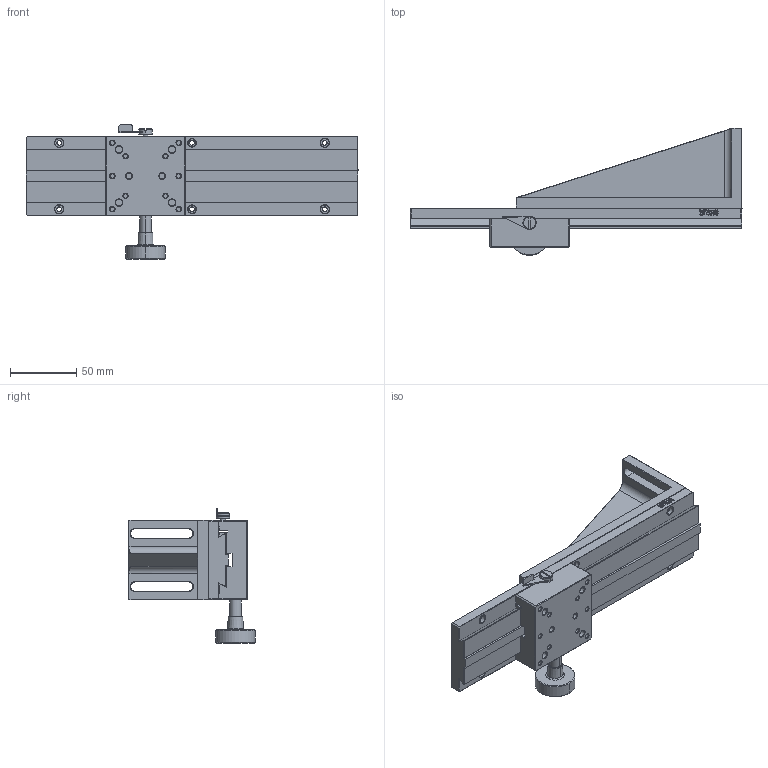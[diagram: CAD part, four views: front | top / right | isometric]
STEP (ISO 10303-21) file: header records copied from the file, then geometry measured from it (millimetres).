
FILE_DESCRIPTION (( 'STEP AP214' ), '1' );
FILE_NAME ('PT-DZ60-250.STEP', '2022-09-17T03:23:40', ( '' ), ( '' ), 'SwSTEP 2.0', 'SolidWorks 2017', '' );
FILE_SCHEMA (( 'AUTOMOTIVE_DESIGN' ));
Length unit declared in the file: millimetre
Products named in the file (3): MANIFOLD_SOLID_BREP_HT; LWX60-2501; PT-DZ60-250
Assembly tree (2 placements, depth 2):
  PT-DZ60-250
    LWX60-2501
    MANIFOLD_SOLID_BREP_HT
Bounding box: 250 x 95.5 x 101 mm (x, y, z)
Volume: 382565.7 mm3; surface area: 82251 mm2
Topology: 2 solids, 4 shells, 807 faces, 2073 edges, 1347 vertices
Faces by surface type: plane 397, bspline 156, cone 131, cylinder 123
Entity records: 32493 total; most frequent: CARTESIAN_POINT 13732, ORIENTED_EDGE 4142, DIRECTION 3296, EDGE_CURVE 2071, VERTEX_POINT 1347, LINE 1280, VECTOR 1280, AXIS2_PLACEMENT_3D 1008
